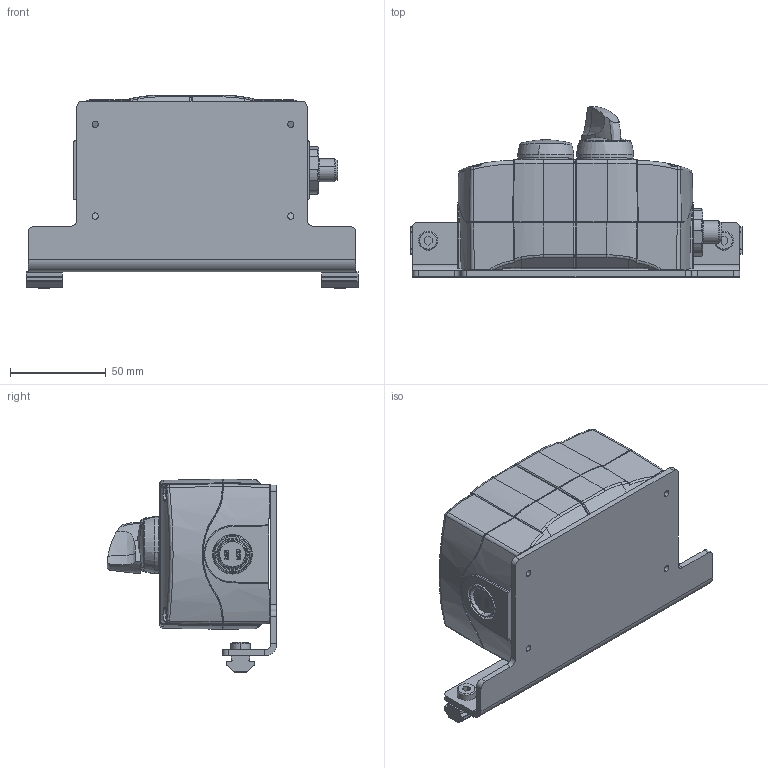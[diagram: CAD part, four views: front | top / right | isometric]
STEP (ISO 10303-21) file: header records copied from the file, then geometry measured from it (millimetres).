
FILE_DESCRIPTION((''),'2;1');
FILE_NAME('75M-EN-1_ASM','2023-02-27T',('jenni.wallner'),(''),'PRO/ENGINEER BY PARAMETRIC TECHNOLOGY CORPORATION, 2012420','PRO/ENGINEER BY PARAMETRIC TECHNOLOGY CORPORATION, 2012420','');
FILE_SCHEMA(('CONFIG_CONTROL_DESIGN'));
Length unit declared in the file: inch
Products named in the file (11): 639971M_CAE; 830-213; 817-281; 830-209; 809-314; 202476; 202477_721465_ASM; ASM0001_ASM; 75M-EN-1_721465_ASM; 950612M; 75M-EN-1_ASM
Assembly tree (12 placements, depth 5):
  75M-EN-1_ASM
    75M-EN-1_721465_ASM
      ASM0001_ASM
        639971M_CAE  x2
        202477_721465_ASM
          830-213
          817-281
          830-209
          809-314
          202476
    950612M  x2
Bounding box: 173.74 x 88.9 x 101.3 mm (x, y, z)
Volume: 81074.1 mm3; surface area: 134201.7 mm2
Topology: 8 solids, 17 shells, 1639 faces, 4385 edges, 2847 vertices
Faces by surface type: plane 875, cylinder 330, bspline 180, cone 172, torus 62, sphere 12, extrusion 8
Entity records: 65729 total; most frequent: CARTESIAN_POINT 27247, ORIENTED_EDGE 8492, DIRECTION 7135, EDGE_CURVE 4249, VERTEX_POINT 2771, AXIS2_PLACEMENT_3D 2380, VECTOR 2375, LINE 2367
